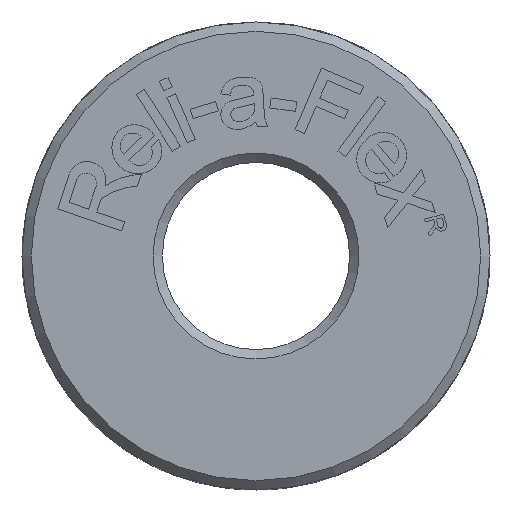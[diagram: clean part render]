
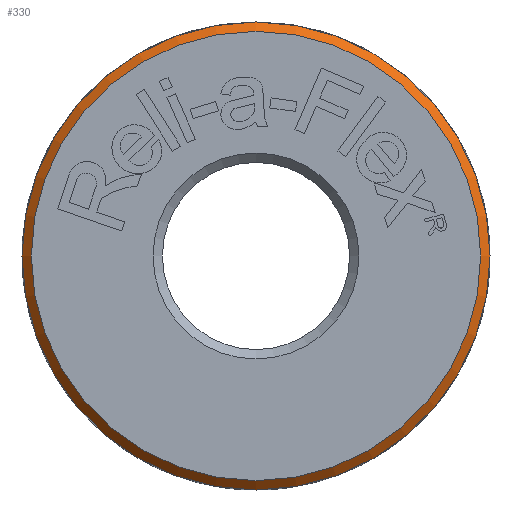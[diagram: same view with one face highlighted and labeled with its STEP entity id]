
A CAD part, front view. The second image highlights one B-rep face of the part: STEP entity #330.
In plain terms, the highlighted conical face has half-angle 45 degrees and reference radius 5 mm.
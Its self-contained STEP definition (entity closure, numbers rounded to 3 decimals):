
#330 = ADVANCED_FACE( '', ( #792, #793 ), #794, .T. );
#792 = FACE_BOUND( '', #1395, .T. );
#793 = FACE_OUTER_BOUND( '', #1396, .T. );
#794 = CONICAL_SURFACE( '', #1397, 5., 0.785 );
#1395 = EDGE_LOOP( '', ( #2383 ) );
#1396 = EDGE_LOOP( '', ( #2384 ) );
#1397 = AXIS2_PLACEMENT_3D( '', #2385, #2386, #2387 );
#2383 = ORIENTED_EDGE( '', *, *, #3471, .F. );
#2384 = ORIENTED_EDGE( '', *, *, #3625, .F. );
#2385 = CARTESIAN_POINT( '', ( 0., 0.2, 0. ) );
#2386 = DIRECTION( '', ( 0., 1., 0. ) );
#2387 = DIRECTION( '', ( 0., 0., 1. ) );
#3471 = EDGE_CURVE( '', #4204, #4204, #4205, .F. );
#3625 = EDGE_CURVE( '', #4436, #4436, #4437, .T. );
#4204 = VERTEX_POINT( '', #5189 );
#4205 = CIRCLE( '', #5190, 4.8 );
#4436 = VERTEX_POINT( '', #5631 );
#4437 = CIRCLE( '', #5632, 5. );
#5189 = CARTESIAN_POINT( '', ( 0., 0., 4.8 ) );
#5190 = AXIS2_PLACEMENT_3D( '', #6505, #6506, #6507 );
#5631 = CARTESIAN_POINT( '', ( 0., 0.2, 5. ) );
#5632 = AXIS2_PLACEMENT_3D( '', #6675, #6676, #6677 );
#6505 = CARTESIAN_POINT( '', ( 0., 0., 0. ) );
#6506 = DIRECTION( '', ( 0., 1., 0. ) );
#6507 = DIRECTION( '', ( 0., 0., 1. ) );
#6675 = CARTESIAN_POINT( '', ( 0., 0.2, 0. ) );
#6676 = DIRECTION( '', ( 0., 1., 0. ) );
#6677 = DIRECTION( '', ( 0., 0., 1. ) );
